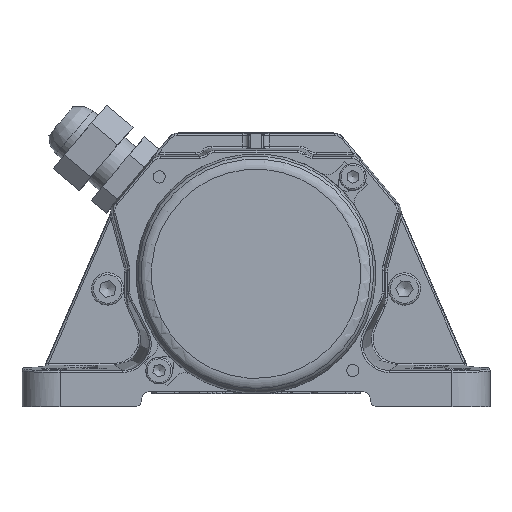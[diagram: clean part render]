
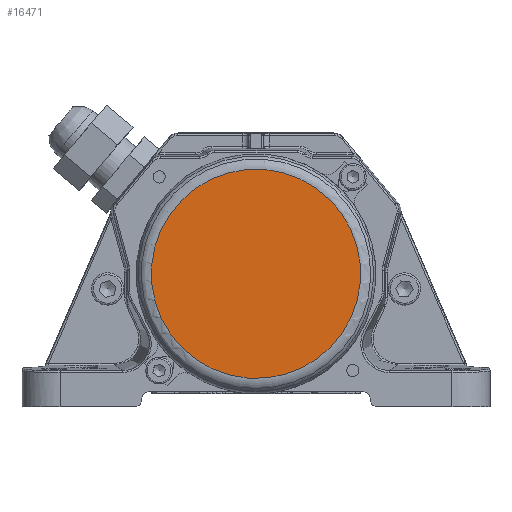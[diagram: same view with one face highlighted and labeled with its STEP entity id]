
A CAD part, left-side view. The second image highlights one B-rep face of the part: STEP entity #16471.
In plain terms, the highlighted planar face has unit normal (-1, 0, 0).
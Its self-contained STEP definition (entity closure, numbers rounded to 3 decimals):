
#1555=PLANE('',#17706);
#2398=FACE_OUTER_BOUND('',#3357,.T.);
#3357=EDGE_LOOP('',(#14312));
#6132=CIRCLE('',#17707,27.5);
#7597=VERTEX_POINT('',#40795);
#9870=EDGE_CURVE('',#7597,#7597,#6132,.T.);
#14312=ORIENTED_EDGE('',*,*,#9870,.T.);
#16471=ADVANCED_FACE('',(#2398),#1555,.T.);
#17706=AXIS2_PLACEMENT_3D('',#40794,#21286,#21287);
#17707=AXIS2_PLACEMENT_3D('',#40796,#21288,#21289);
#21286=DIRECTION('center_axis',(-1.,0.,0.));
#21287=DIRECTION('ref_axis',(0.,-0.709,-0.705));
#21288=DIRECTION('center_axis',(-1.,0.,0.));
#21289=DIRECTION('ref_axis',(0.,-0.709,-0.705));
#40794=CARTESIAN_POINT('Origin',(-35.,38.282,30.488));
#40795=CARTESIAN_POINT('',(-35.,57.788,49.873));
#40796=CARTESIAN_POINT('Origin',(-35.,38.282,30.488));
